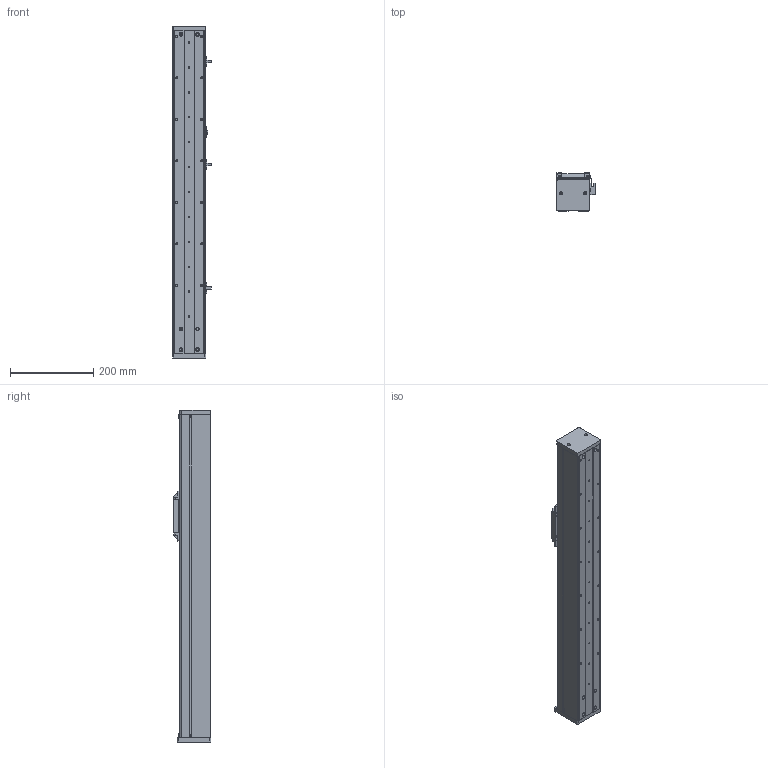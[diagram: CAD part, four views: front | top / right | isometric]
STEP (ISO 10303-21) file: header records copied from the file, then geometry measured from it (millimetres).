
FILE_DESCRIPTION (( 'STEP AP214' ), '1' );
FILE_NAME ('CF80-C-550-FW.STEP', '2020-01-15T07:50:52', ( '微软用户' ), ( '微软中国' ), 'SwSTEP 2.0', 'SolidWorks 2016', '' );
FILE_SCHEMA (( 'AUTOMOTIVE_DESIGN' ));
Length unit declared in the file: millimetre
Products named in the file (15): EGW15CA賑輸; CF80墙板-550; CF80菁釱-550; CF80-C-550-FW; 嫖萇羲壽; 壽萇羲壽覜茼え; CF80詩湍揤啣2; CF80耜啣; CF80詩湍-550; CF80盓傅釱; CF80-祭輛57萇儂假蚾啣; 賑雄輸裔啣; CFN80嘐隅釱; CF80賑雄輸; EGR15絳寢-550
Assembly tree (18 placements, depth 2):
  CF80-C-550-FW
    CF80菁釱-550
    CF80墙板-550  x2
    EGW15CA賑輸
    EGR15絳寢-550
    CF80賑雄輸
    CFN80嘐隅釱
    賑雄輸裔啣
    CF80-祭輛57萇儂假蚾啣
    CF80盓傅釱
    CF80詩湍-550
    CF80耜啣
    CF80詩湍揤啣2  x2
    壽萇羲壽覜茼え
    嫖萇羲壽  x3
Bounding box: 93.5 x 91 x 800 mm (x, y, z)
Volume: 1786337.1 mm3; surface area: 780829.1 mm2
Topology: 18 solids, 18 shells, 843 faces, 2402 edges, 1582 vertices
Faces by surface type: plane 423, cylinder 404, cone 16
Entity records: 27625 total; most frequent: CARTESIAN_POINT 5538, DIRECTION 4285, ORIENTED_EDGE 4218, EDGE_CURVE 2109, AXIS2_PLACEMENT_3D 1537, VERTEX_POINT 1396, LINE 1211, VECTOR 1211
